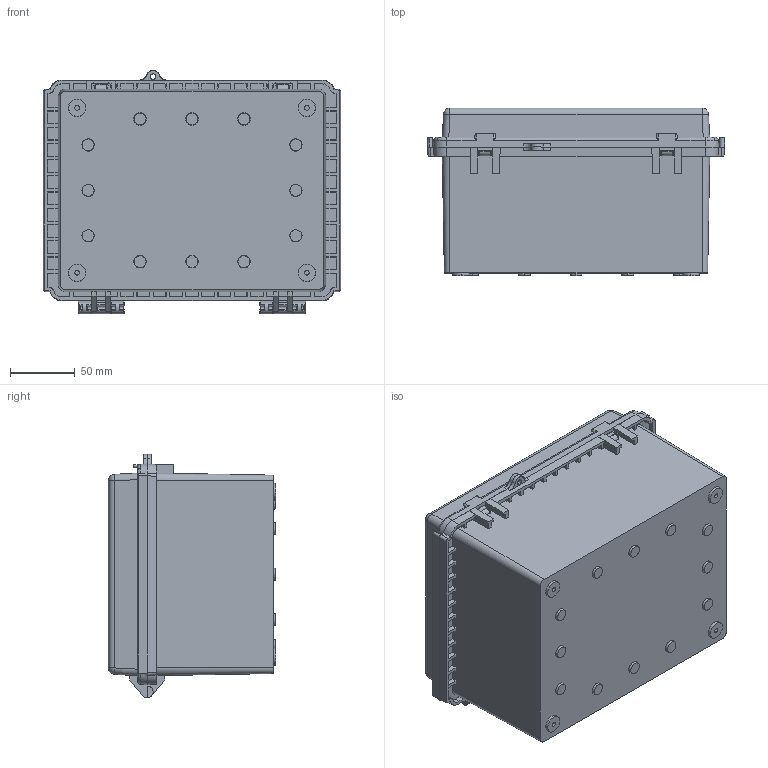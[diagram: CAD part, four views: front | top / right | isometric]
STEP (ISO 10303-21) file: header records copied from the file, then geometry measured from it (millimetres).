
FILE_DESCRIPTION (( 'STEP AP203' ), '1' );
FILE_NAME ('EC-1722-13.STEP', '2025-10-24T07:42:06', ( '' ), ( '' ), 'SwSTEP 2.0', 'SolidWorks 2021', '' );
FILE_SCHEMA (( 'CONFIG_CONTROL_DESIGN' ));
Length unit declared in the file: millimetre
Products named in the file (3): EC-1722-P-2; EC-1722-13; EC-1722-P-1
Assembly tree (2 placements, depth 2):
  EC-1722-13
    EC-1722-P-1
    EC-1722-P-2
Bounding box: 229 x 129.01 x 187.48 mm (x, y, z)
Volume: 579090.2 mm3; surface area: 349436.8 mm2
Topology: 2 solids, 2 shells, 802 faces, 2171 edges, 1402 vertices
Faces by surface type: plane 538, cylinder 115, cone 96, bspline 36, sphere 9, torus 8
Entity records: 26419 total; most frequent: CARTESIAN_POINT 6495, ORIENTED_EDGE 4320, DIRECTION 3772, EDGE_CURVE 2160, VECTOR 1578, LINE 1578, VERTEX_POINT 1400, AXIS2_PLACEMENT_3D 1097
